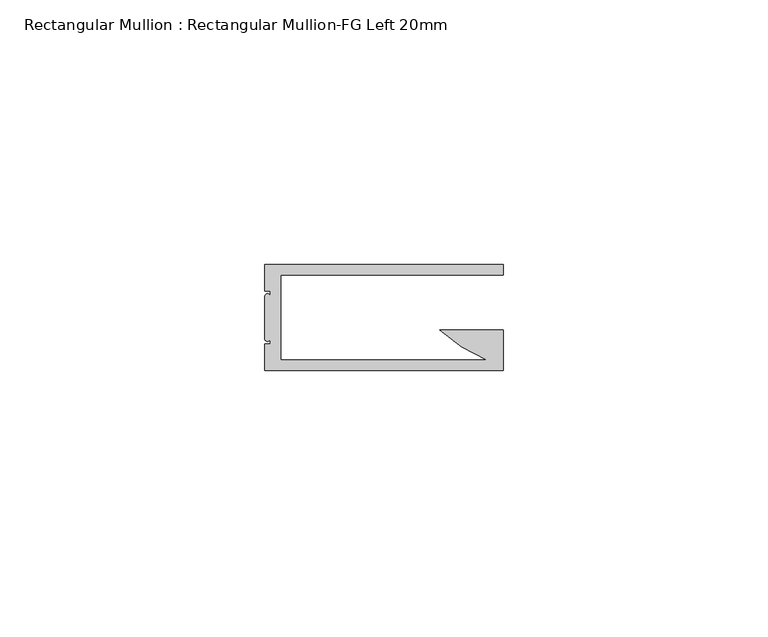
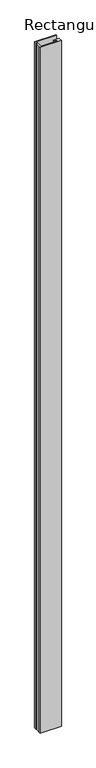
"""IFC4 building model written with IfcOpenShell, lengths in millimetres: member geometry, Rectangular Mullion : Rectangular Mullion-FG Left 20mm."""

from ifc_helpers import new_model, si_unit, frame, origin, place, context, project, spatial, circle_curve, source, transform, mapped, element, save
from ifc_brep_helpers import plane_surface, cylinder_surface, advanced_brep


def rectangular_mullion_rectangular_mullion_fg_left_20mm_23cf265d(model_context):
    return source(origin(), model_context, "Body", "AdvancedBrep", [
        advanced_brep(
        [(-45.0, -5.002, 0.0), (-44.0, -5.002, 0.0), (-44.0, -6.002, 0.0), (-45.0, -6.002, 0.0), (-45.0, -14.002, 0.0), (-44.0, -14.002, 0.0), (-44.0, -15.002, 0.0), (-45.0, -15.002, 0.0), (-45.0, -20.002, 0.0), (0.0, -20.002, 0.0), (0.0, -18.002, 0.0), (0.0, -12.382, 0.0), (-11.9525144, -12.382, 0.0), (-3.1348386, -18.002, 0.0), (-42.0, -18.002, 0.0), (-42.0, -2.002, 0.0), (0.0, -2.002, 0.0), (0.0, -0.002, 0.0), (-45.0, -0.002, 0.0), (-45.0, -5.002, -1541.3454707), (-45.0, -0.002, -1541.3454707), (0.0, -0.002, -1541.3454707), (0.0, -2.002, -1541.3454707), (-42.0, -2.002, -1541.3454707), (-42.0, -18.002, -1541.3454707), (-3.1348386, -18.002, -1541.3454707), (-11.9525144, -12.382, -1541.3454707), (0.0, -12.382, -1541.3454707), (0.0, -18.002, -1541.3454707), (0.0, -20.002, -1541.3454707), (-45.0, -20.002, -1541.3454707), (-45.0, -15.002, -1541.3454707), (-44.0, -15.002, -1541.3454707), (-44.0, -14.002, -1541.3454707), (-45.0, -14.002, -1541.3454707), (-45.0, -6.002, -1541.3454707), (-44.0, -6.002, -1541.3454707), (-44.0, -5.002, -1541.3454707)],
        [
            (0, 1),
            (1, 2),
            (2, 3, circle_curve(frame((-44.5, -6.002, 0.0), z_axis=(0.0, 0.0, 1.0), x_axis=(-1.0, 0.0, 0.0)), 0.5)),
            (3, 4),
            (4, 5, circle_curve(frame((-44.5, -14.002, 0.0), z_axis=(0.0, 0.0, 1.0), x_axis=(-1.0, 0.0, 0.0)), 0.5)),
            (5, 6),
            (6, 7),
            (7, 8),
            (8, 9),
            (9, 10),
            (10, 11),
            (11, 12),
            (12, 13, circle_curve(frame((7.4160523, 8.2795369, 0.0), z_axis=(0.0, 0.0, 1.0), x_axis=(-1.0, 0.0, 0.0)), 28.3203192)),
            (13, 14),
            (14, 15),
            (15, 16),
            (16, 17),
            (17, 18),
            (18, 0),
            (19, 20),
            (20, 21),
            (21, 22),
            (22, 23),
            (23, 24),
            (24, 25),
            (25, 26, circle_curve(frame((7.4160523, 8.2795369, -1541.3454707), z_axis=(0.0, 0.0, -1.0), x_axis=(-1.0, 0.0, 0.0)), 28.3203192)),
            (26, 27),
            (27, 28),
            (28, 29),
            (29, 30),
            (30, 31),
            (31, 32),
            (32, 33),
            (33, 34, circle_curve(frame((-44.5, -14.002, -1541.3454707), z_axis=(0.0, 0.0, -1.0), x_axis=(-1.0, 0.0, 0.0)), 0.5)),
            (34, 35),
            (35, 36, circle_curve(frame((-44.5, -6.002, -1541.3454707), z_axis=(0.0, 0.0, -1.0), x_axis=(-1.0, 0.0, 0.0)), 0.5)),
            (36, 37),
            (37, 19),
            (0, 19),
            (37, 1),
            (36, 2),
            (35, 3),
            (34, 4),
            (33, 5),
            (32, 6),
            (31, 7),
            (30, 8),
            (29, 9),
            (28, 10),
            (27, 11),
            (26, 12),
            (25, 13),
            (24, 14),
            (23, 15),
            (22, 16),
            (21, 17),
            (20, 18),
        ],
        [
            plane_surface(frame((0.0, -49.2451013, 0.0), z_axis=(0.0, 0.0, 1.0), x_axis=(-1.0, 0.0, 0.0))),
            plane_surface(frame((0.0, -49.2451013, -1541.3454707), z_axis=(0.0, 0.0, -1.0), x_axis=(-1.0, 0.0, 0.0))),
            plane_surface(frame((-45.0, -5.002, 0.0), z_axis=(0.0, -1.0, 0.0), x_axis=(0.0, 0.0, -1.0))),
            plane_surface(frame((-44.0, -5.002, 0.0), z_axis=(-1.0, 0.0, 0.0), x_axis=(0.0, 0.0, -1.0))),
            cylinder_surface(frame((-44.5, -6.002, 0.0), z_axis=(0.0, 0.0, 1.0), x_axis=(-1.0, 0.0, 0.0)), 0.5),
            plane_surface(frame((-45.0, -6.002, 0.0), z_axis=(-1.0, 0.0, 0.0), x_axis=(0.0, 0.0, -1.0))),
            cylinder_surface(frame((-44.5, -14.002, 0.0), z_axis=(0.0, 0.0, 1.0), x_axis=(-1.0, 0.0, 0.0)), 0.5),
            plane_surface(frame((-44.0, -14.002, 0.0), z_axis=(-1.0, 0.0, 0.0), x_axis=(0.0, 0.0, -1.0))),
            plane_surface(frame((-44.0, -15.002, 0.0), z_axis=(0.0, 1.0, 0.0), x_axis=(0.0, 0.0, -1.0))),
            plane_surface(frame((-45.0, -15.002, 0.0), z_axis=(-1.0, 0.0, 0.0), x_axis=(0.0, 0.0, -1.0))),
            plane_surface(frame((-45.0, -20.002, 0.0), z_axis=(0.0, -1.0, 0.0), x_axis=(0.0, 0.0, -1.0))),
            plane_surface(frame((0.0, -20.002, 0.0), z_axis=(1.0, 0.0, 0.0), x_axis=(0.0, 0.0, -1.0))),
            plane_surface(frame((0.0, -18.002, 0.0), z_axis=(1.0, 0.0, 0.0), x_axis=(0.0, 0.0, -1.0))),
            plane_surface(frame((0.0, -12.382, 0.0), z_axis=(0.0, 1.0, 0.0), x_axis=(0.0, 0.0, -1.0))),
            cylinder_surface(frame((7.4160523, 8.2795369, 0.0), z_axis=(0.0, 0.0, 1.0), x_axis=(-1.0, 0.0, 0.0)), 28.3203192),
            plane_surface(frame((-3.1348386, -18.002, 0.0), z_axis=(0.0, 1.0, 0.0), x_axis=(0.0, 0.0, -1.0))),
            plane_surface(frame((-42.0, -18.002, 0.0), z_axis=(1.0, 0.0, 0.0), x_axis=(0.0, 0.0, -1.0))),
            plane_surface(frame((-42.0, -2.002, 0.0), z_axis=(0.0, -1.0, 0.0), x_axis=(0.0, 0.0, -1.0))),
            plane_surface(frame((0.0, -2.002, 0.0), z_axis=(1.0, 0.0, 0.0), x_axis=(0.0, 0.0, -1.0))),
            plane_surface(frame((0.0, -0.002, 0.0), z_axis=(0.0, 1.0, 0.0), x_axis=(0.0, 0.0, -1.0))),
            plane_surface(frame((-45.0, -0.002, 0.0), z_axis=(-1.0, 0.0, 0.0), x_axis=(0.0, 0.0, -1.0))),
        ],
        [
            (0, [[1, 2, 3, 4, 5, 6, 7, 8, 9, 10, 11, 12, 13, 14, 15, 16, 17, 18, 19]]),
            (1, [[20, 21, 22, 23, 24, 25, 26, 27, 28, 29, 30, 31, 32, 33, 34, 35, 36, 37, 38]]),
            (2, [[-1, 39, -38, 40]]),
            (3, [[-2, -40, -37, 41]]),
            (4, [[-3, -41, -36, 42]]),
            (5, [[-4, -42, -35, 43]]),
            (6, [[-5, -43, -34, 44]]),
            (7, [[-6, -44, -33, 45]]),
            (8, [[-7, -45, -32, 46]]),
            (9, [[-8, -46, -31, 47]]),
            (10, [[-9, -47, -30, 48]]),
            (11, [[-10, -48, -29, 49]]),
            (12, [[-11, -49, -28, 50]]),
            (13, [[-12, -50, -27, 51]]),
            (14, [[-13, -51, -26, 52]]),
            (15, [[-14, -52, -25, 53]]),
            (16, [[-15, -53, -24, 54]]),
            (17, [[-16, -54, -23, 55]]),
            (18, [[-17, -55, -22, 56]]),
            (19, [[-18, -56, -21, 57]]),
            (20, [[-19, -57, -20, -39]]),
        ],
    ),
    ])


if __name__ == "__main__":
    model = new_model("IFC4")
    model_context = context("Model", 3, world=origin())
    ifc_project = project(units=[si_unit("LENGTHUNIT", "METRE", prefix="MILLI")], contexts=[model_context])
    site = spatial("IfcSite", under=ifc_project)
    building = spatial("IfcBuilding", under=site)
    placement = place(None, origin())
    rectangular_mullion_rectangular_mullion_fg_left_20mm_shape = rectangular_mullion_rectangular_mullion_fg_left_20mm_23cf265d(model_context)
    element("IfcMember", 1, ObjectType="Rectangular Mullion : Rectangular Mullion-FG Left 20mm", at=placement, inside=building, context=model_context, shape_type="MappedRepresentation", body=[
        mapped(rectangular_mullion_rectangular_mullion_fg_left_20mm_shape, transform((0.0, 0.0, 0.0), x_axis=(1.0, 0.0, 0.0), y_axis=(0.0, 1.0, 0.0), z_axis=(0.0, 0.0, 1.0))),
    ])
    save(model, "model.ifc")
